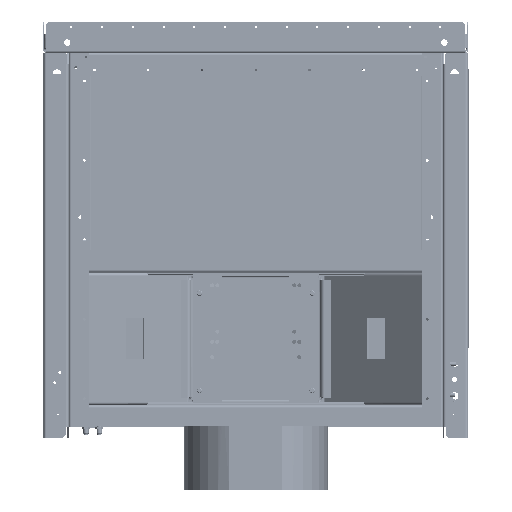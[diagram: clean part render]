
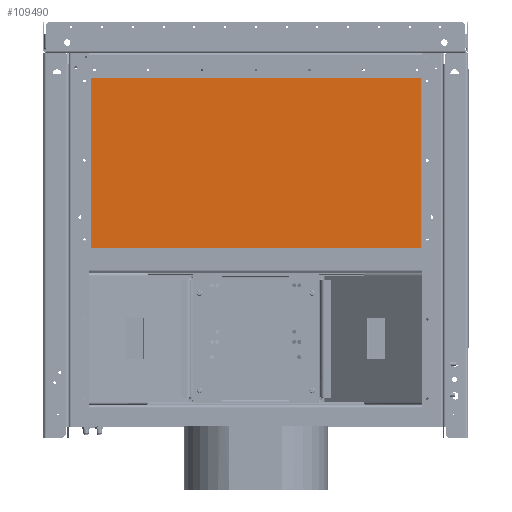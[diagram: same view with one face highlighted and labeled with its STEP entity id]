
A CAD part, front view. The second image highlights one B-rep face of the part: STEP entity #109490.
In plain terms, the highlighted planar face has unit normal (0, -1, 0) as drawn and (0, 1, 0) by its records, which use the part's own axes.
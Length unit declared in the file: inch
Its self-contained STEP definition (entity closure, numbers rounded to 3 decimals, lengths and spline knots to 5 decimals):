
#109375=DIRECTION('',(1.,0.,0.));
#109376=VECTOR('',#109375,16.6487);
#109377=CARTESIAN_POINT('',(-8.32435,1.93,16.1));
#109378=LINE('',#109377,#109376);
#109379=DIRECTION('',(0.,0.,1.));
#109380=VECTOR('',#109379,32.2);
#109381=CARTESIAN_POINT('',(-8.32435,1.93,-16.1));
#109382=LINE('',#109381,#109380);
#109383=DIRECTION('',(-1.,0.,0.));
#109384=VECTOR('',#109383,16.6487);
#109385=CARTESIAN_POINT('',(8.32435,1.93,-16.1));
#109386=LINE('',#109385,#109384);
#109387=DIRECTION('',(0.,0.,-1.));
#109388=VECTOR('',#109387,32.2);
#109389=CARTESIAN_POINT('',(8.32435,1.93,16.1));
#109390=LINE('',#109389,#109388);
#109399=CARTESIAN_POINT('',(-8.32435,1.93,16.1));
#109400=CARTESIAN_POINT('',(8.32435,1.93,16.1));
#109401=VERTEX_POINT('',#109399);
#109402=VERTEX_POINT('',#109400);
#109403=CARTESIAN_POINT('',(8.32435,1.93,-16.1));
#109404=VERTEX_POINT('',#109403);
#109405=CARTESIAN_POINT('',(-8.32435,1.93,-16.1));
#109406=VERTEX_POINT('',#109405);
#109479=CARTESIAN_POINT('',(0.,1.93,0.));
#109480=DIRECTION('',(0.,1.,0.));
#109481=DIRECTION('',(1.,0.,0.));
#109482=AXIS2_PLACEMENT_3D('',#109479,#109480,#109481);
#109483=PLANE('',#109482);
#109484=ORIENTED_EDGE('',*,*,#109431,.F.);
#109485=ORIENTED_EDGE('',*,*,#109446,.F.);
#109486=ORIENTED_EDGE('',*,*,#109460,.F.);
#109487=ORIENTED_EDGE('',*,*,#109473,.F.);
#109488=EDGE_LOOP('',(#109484,#109485,#109486,#109487));
#109489=FACE_OUTER_BOUND('',#109488,.F.);
#109490=ADVANCED_FACE('',(#109489),#109483,.T.);
#109431=EDGE_CURVE('',#109401,#109402,#109378,.T.);
#109446=EDGE_CURVE('',#109406,#109401,#109382,.T.);
#109460=EDGE_CURVE('',#109404,#109406,#109386,.T.);
#109473=EDGE_CURVE('',#109402,#109404,#109390,.T.);
